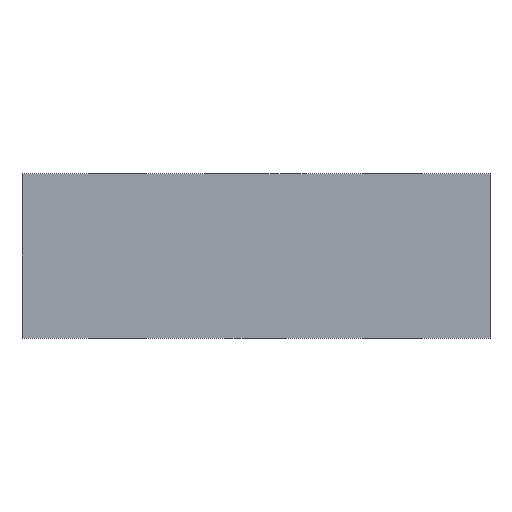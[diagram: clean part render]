
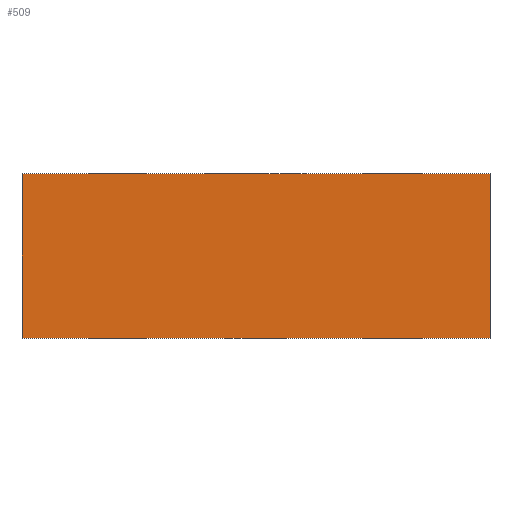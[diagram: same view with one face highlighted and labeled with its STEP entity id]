
A CAD part, front view. The second image highlights one B-rep face of the part: STEP entity #509.
In plain terms, the highlighted planar face has unit normal (0, -1, 0).
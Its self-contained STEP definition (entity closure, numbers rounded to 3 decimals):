
#52 = VERTEX_POINT ( 'NONE', #115 ) ;
#55 = VERTEX_POINT ( 'NONE', #110 ) ;
#110 = CARTESIAN_POINT ( 'NONE',  ( 25.6, -95., 0. ) ) ;
#115 = CARTESIAN_POINT ( 'NONE',  ( -25.6, -95., 0. ) ) ;
#132 = CARTESIAN_POINT ( 'NONE',  ( 25.6, -95., 18. ) ) ;
#135 = CARTESIAN_POINT ( 'NONE',  ( -25.6, -95., 18. ) ) ;
#166 = CARTESIAN_POINT ( 'NONE',  ( -25.6, -95., 18. ) ) ;
#167 = CARTESIAN_POINT ( 'NONE',  ( -25.6, -95., 18. ) ) ;
#168 = DIRECTION ( 'NONE',  ( 0., 0., -1. ) ) ;
#172 = CARTESIAN_POINT ( 'NONE',  ( -25.6, -95., 0. ) ) ;
#173 = DIRECTION ( 'NONE',  ( 1., 0., 0. ) ) ;
#174 = CARTESIAN_POINT ( 'NONE',  ( 25.6, -95., 18. ) ) ;
#176 = DIRECTION ( 'NONE',  ( 0., 0., -1. ) ) ;
#177 = DIRECTION ( 'NONE',  ( 1., 0., 0. ) ) ;
#227 = CARTESIAN_POINT ( 'NONE',  ( -25.6, -95., 18. ) ) ;
#233 = PLANE ( 'NONE',  #371 ) ;
#236 = DIRECTION ( 'NONE',  ( 0., 1., 0. ) ) ;
#237 = DIRECTION ( 'NONE',  ( 0., 0., 1. ) ) ;
#371 = AXIS2_PLACEMENT_3D ( 'NONE', #227, #236, #237 ) ;
#404 = EDGE_LOOP ( 'NONE', ( #639, #628, #540, #537 ) ) ;
#405 = VERTEX_POINT ( 'NONE', #132 ) ;
#408 = VERTEX_POINT ( 'NONE', #135 ) ;
#440 = EDGE_CURVE ( 'NONE', #408, #52, #752, .T. ) ;
#443 = EDGE_CURVE ( 'NONE', #52, #55, #758, .T. ) ;
#444 = EDGE_CURVE ( 'NONE', #405, #55, #760, .T. ) ;
#445 = EDGE_CURVE ( 'NONE', #408, #405, #756, .T. ) ;
#509 = ADVANCED_FACE ( 'NONE', ( #804 ), #233, .F. ) ;
#537 = ORIENTED_EDGE ( 'NONE', *, *, #440, .T. ) ;
#540 = ORIENTED_EDGE ( 'NONE', *, *, #445, .F. ) ;
#628 = ORIENTED_EDGE ( 'NONE', *, *, #444, .F. ) ;
#639 = ORIENTED_EDGE ( 'NONE', *, *, #443, .T. ) ;
#752 = LINE ( 'NONE', #166, #755 ) ;
#755 = VECTOR ( 'NONE', #168, 1000. ) ;
#756 = LINE ( 'NONE', #167, #765 ) ;
#758 = LINE ( 'NONE', #172, #761 ) ;
#760 = LINE ( 'NONE', #174, #763 ) ;
#761 = VECTOR ( 'NONE', #173, 1000. ) ;
#763 = VECTOR ( 'NONE', #176, 1000. ) ;
#765 = VECTOR ( 'NONE', #177, 1000. ) ;
#804 = FACE_OUTER_BOUND ( 'NONE', #404, .T. ) ;
